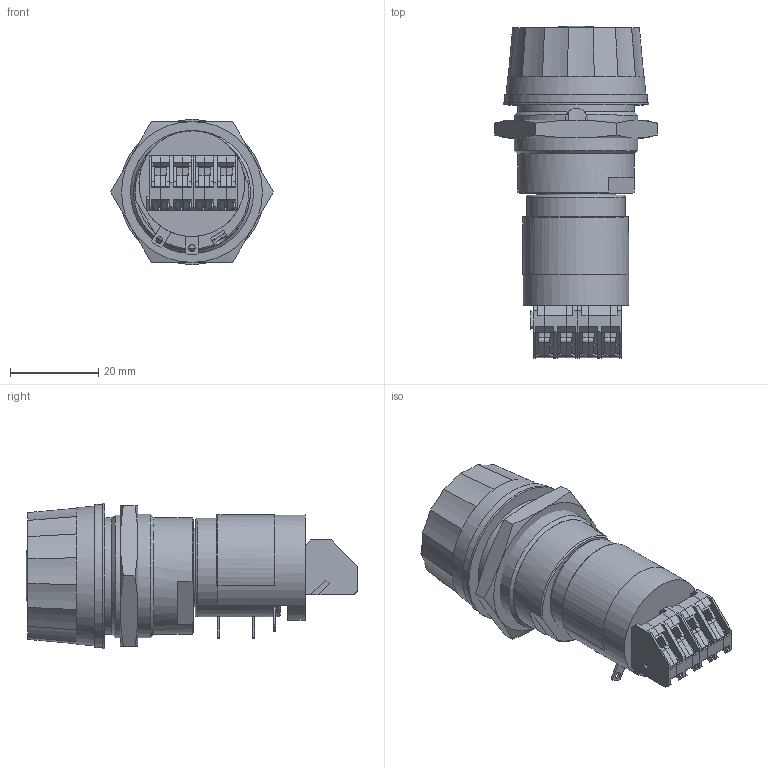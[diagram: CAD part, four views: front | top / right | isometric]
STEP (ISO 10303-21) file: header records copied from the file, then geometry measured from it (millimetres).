
FILE_DESCRIPTION (( 'STEP AP214' ), '1' );
FILE_NAME ('MD22.STEP', '2019-04-29T12:10:51', ( '' ), ( '' ), 'SwSTEP 2.0', 'SolidWorks 2017', '' );
FILE_SCHEMA (( 'AUTOMOTIVE_DESIGN' ));
Length unit declared in the file: millimetre
Products named in the file (14): 54.002.00.EIN._STEP-691201720002S-rev1; 34.000.00.EIN; MD22; 85.000.00.ein.dummy; 33.000.23.EIN; 21.006.xx.GRU.kabel_dummy; 41.004.00_dummy_MD22.EIN; 90.001.04.EIN; AL1710M; 58.000.xx.ein; hex nut_AL1710M; 30.002.01.EIN; 30.002.02.EIN; 58.000.xx.ein_Verdrehschutzscheibe
Assembly tree (18 placements, depth 2):
  MD22
    AL1710M
    30.002.01.EIN
    58.000.xx.ein
    58.000.xx.ein_Verdrehschutzscheibe
    90.001.04.EIN
    30.002.02.EIN
    34.000.00.EIN
    hex nut_AL1710M
    33.000.23.EIN
    54.002.00.EIN._STEP-691201720002S-rev1  x2
    21.006.xx.GRU.kabel_dummy  x3
    85.000.00.ein.dummy  x3
    41.004.00_dummy_MD22.EIN
Bounding box: 36.95 x 75.41 x 33 mm (x, y, z)
Volume: 32826.4 mm3; surface area: 26208.6 mm2
Topology: 17 solids, 23 shells, 651 faces, 1812 edges, 1226 vertices
Faces by surface type: plane 420, cylinder 107, bspline 64, cone 40, torus 19, sphere 1
Full cylindrical faces by diameter (mm): 0.45 x6, 1 x3, 1.5 x4, 1.6 x1, 2 x3, 2.5 x1, 2.6 x3, 3 x3, 5 x1, 5.7 x1, 6.35 x2, 8.5 x1, 9.5 x1, 9.7 x1, 10.3 x1, 10.32 x1, 15.5 x2, 18 x1, 22.35 x1, 22.4 x1, 23.9 x1, 24 x2, 25.15 x1, 26 x4, 26.5 x2, 27 x2, 28 x1, 32.5 x1, 33 x1
Entity records: 20096 total; most frequent: CARTESIAN_POINT 5841, ORIENTED_EDGE 2336, DIRECTION 2272, EDGE_CURVE 1254, VERTEX_POINT 868, AXIS2_PLACEMENT_3D 789, LINE 694, VECTOR 694
